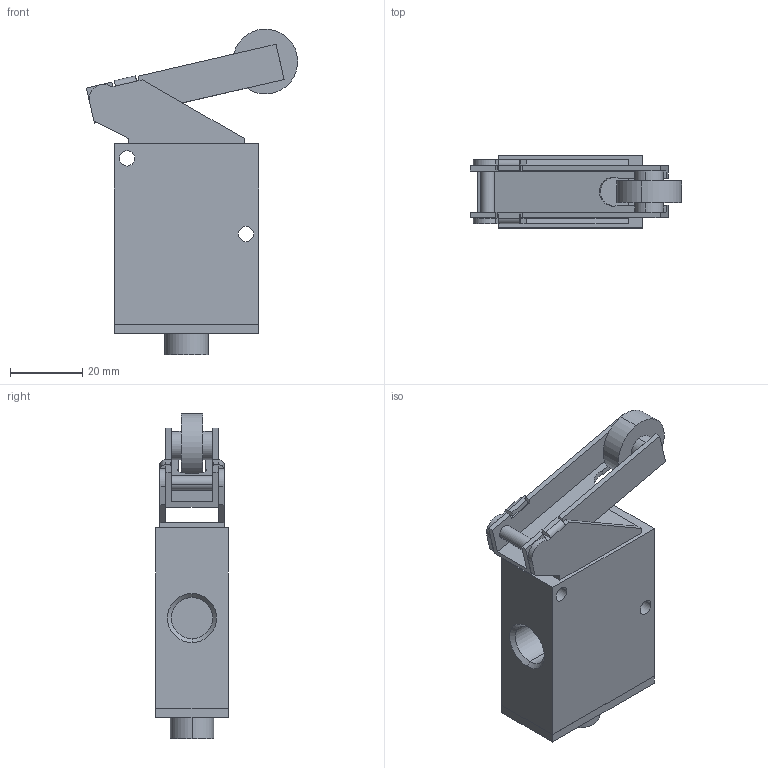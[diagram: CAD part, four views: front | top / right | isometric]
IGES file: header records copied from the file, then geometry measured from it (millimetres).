
Global section: file name: No Iges File Name specified; native system: AutoDesk Inventor R11.0; preprocessor: AutoDesk Inventor Iges Exporter R11.0; author: No Author specified; organization: No Organization specified; date: 20061219.113303; units: millimetre
Bounding box: 58.61 x 20 x 90.34 mm (x, y, z)
Volume: 45027.9 mm3; surface area: 17289.4 mm2
Topology: 3 solids, 3 shells, 111 faces, 264 edges, 168 vertices
Faces by surface type: plane 65, bspline 27, cylinder 14, revolution 5
